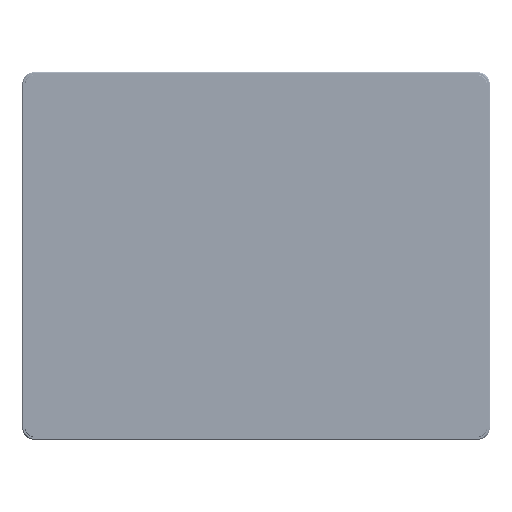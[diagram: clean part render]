
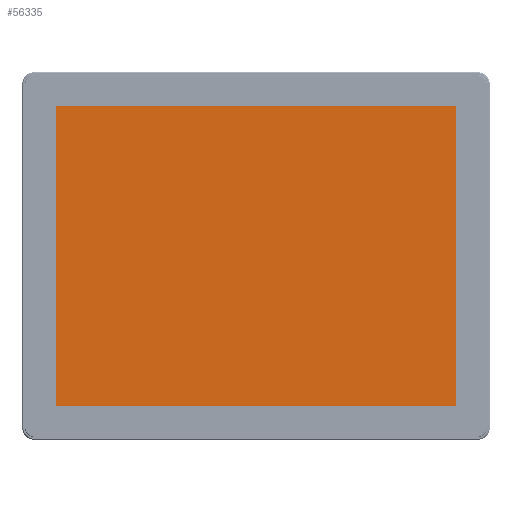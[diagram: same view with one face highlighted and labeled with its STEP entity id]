
A CAD part, top view. The second image highlights one B-rep face of the part: STEP entity #56335.
In plain terms, the highlighted planar face has unit normal (0, 0, 1) as drawn and (0, -1, 0) by its records, which use the part's own axes.
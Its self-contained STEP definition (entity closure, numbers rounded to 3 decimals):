
#76 = CARTESIAN_POINT ( 'NONE',  ( 152., -3.9, 114. ) ) ;
#177 = DIRECTION ( 'NONE',  ( 0., 0., 1. ) ) ;
#4690 = VERTEX_POINT ( 'NONE', #207301 ) ;
#11304 = EDGE_CURVE ( 'NONE', #200391, #135328, #189837, .T. ) ;
#16719 = LINE ( 'NONE', #228225, #192285 ) ;
#23197 = VECTOR ( 'NONE', #50606, 1000. ) ;
#28984 = VECTOR ( 'NONE', #269553, 1000. ) ;
#30653 = CARTESIAN_POINT ( 'NONE',  ( -152., -3.9, 114. ) ) ;
#50606 = DIRECTION ( 'NONE',  ( 1., 0., 0. ) ) ;
#56335 = ADVANCED_FACE ( 'NONE', ( #271079 ), #144781, .T. ) ;
#64624 = LINE ( 'NONE', #76, #191265 ) ;
#67147 = LINE ( 'NONE', #237417, #23197 ) ;
#76411 = EDGE_CURVE ( 'NONE', #223373, #200391, #64624, .T. ) ;
#86570 = DIRECTION ( 'NONE',  ( -1., 0., 0. ) ) ;
#116228 = ORIENTED_EDGE ( 'NONE', *, *, #11304, .T. ) ;
#121428 = CARTESIAN_POINT ( 'NONE',  ( -152., -3.9, -114. ) ) ;
#132115 = AXIS2_PLACEMENT_3D ( 'NONE', #178178, #136983, #179541 ) ;
#135328 = VERTEX_POINT ( 'NONE', #121428 ) ;
#136983 = DIRECTION ( 'NONE',  ( 0., -1., 0. ) ) ;
#144781 = PLANE ( 'NONE',  #132115 ) ;
#150027 = ORIENTED_EDGE ( 'NONE', *, *, #231960, .T. ) ;
#153641 = EDGE_CURVE ( 'NONE', #4690, #223373, #16719, .T. ) ;
#176771 = CARTESIAN_POINT ( 'NONE',  ( 152., -3.9, 114. ) ) ;
#178178 = CARTESIAN_POINT ( 'NONE',  ( -168., -3.9, 130. ) ) ;
#179541 = DIRECTION ( 'NONE',  ( 0., 0., -1. ) ) ;
#189837 = LINE ( 'NONE', #230985, #28984 ) ;
#191265 = VECTOR ( 'NONE', #86570, 1000. ) ;
#192285 = VECTOR ( 'NONE', #177, 1000. ) ;
#200391 = VERTEX_POINT ( 'NONE', #30653 ) ;
#207301 = CARTESIAN_POINT ( 'NONE',  ( 152., -3.9, -114. ) ) ;
#223373 = VERTEX_POINT ( 'NONE', #176771 ) ;
#228225 = CARTESIAN_POINT ( 'NONE',  ( 152., -3.9, -114. ) ) ;
#230985 = CARTESIAN_POINT ( 'NONE',  ( -152., -3.9, -114. ) ) ;
#231960 = EDGE_CURVE ( 'NONE', #135328, #4690, #67147, .T. ) ;
#233057 = ORIENTED_EDGE ( 'NONE', *, *, #76411, .T. ) ;
#237417 = CARTESIAN_POINT ( 'NONE',  ( 152., -3.9, -114. ) ) ;
#242583 = ORIENTED_EDGE ( 'NONE', *, *, #153641, .T. ) ;
#243854 = EDGE_LOOP ( 'NONE', ( #116228, #150027, #242583, #233057 ) ) ;
#269553 = DIRECTION ( 'NONE',  ( 0., 0., -1. ) ) ;
#271079 = FACE_OUTER_BOUND ( 'NONE', #243854, .T. ) ;
